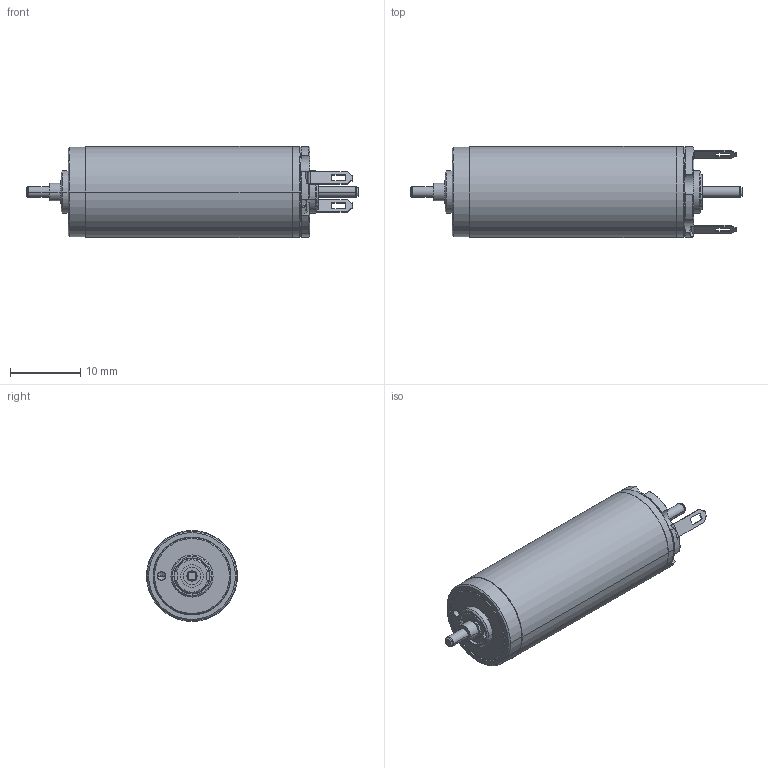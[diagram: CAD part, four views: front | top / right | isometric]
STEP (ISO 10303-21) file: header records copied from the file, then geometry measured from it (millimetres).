
FILE_DESCRIPTION((''),'2;1');
FILE_NAME('118613_3W_2WE_SW0001','2016-08-22T',('mmagpetk'),(''),'CREO PARAMETRIC BY PTC INC, 2016050','CREO PARAMETRIC BY PTC INC, 2016050','');
FILE_SCHEMA(('CONFIG_CONTROL_DESIGN'));
Length unit declared in the file: millimetre
Products named in the file (1): 118613_3W_2WE_SW0001
Bounding box: 47.4 x 13 x 13 mm (x, y, z)
Volume: 4601.4 mm3; surface area: 2190.5 mm2
Topology: 1 solids, 1 shells, 291 faces, 746 edges, 467 vertices
Faces by surface type: plane 116, cylinder 112, cone 51, torus 8, bspline 4
Entity records: 11534 total; most frequent: CARTESIAN_POINT 1933, DIRECTION 1595, ORIENTED_EDGE 1488, PRESENTATION_STYLE_ASSIGNMENT 745, STYLED_ITEM 745, CURVE_STYLE 744, EDGE_CURVE 744, AXIS2_PLACEMENT_3D 615
